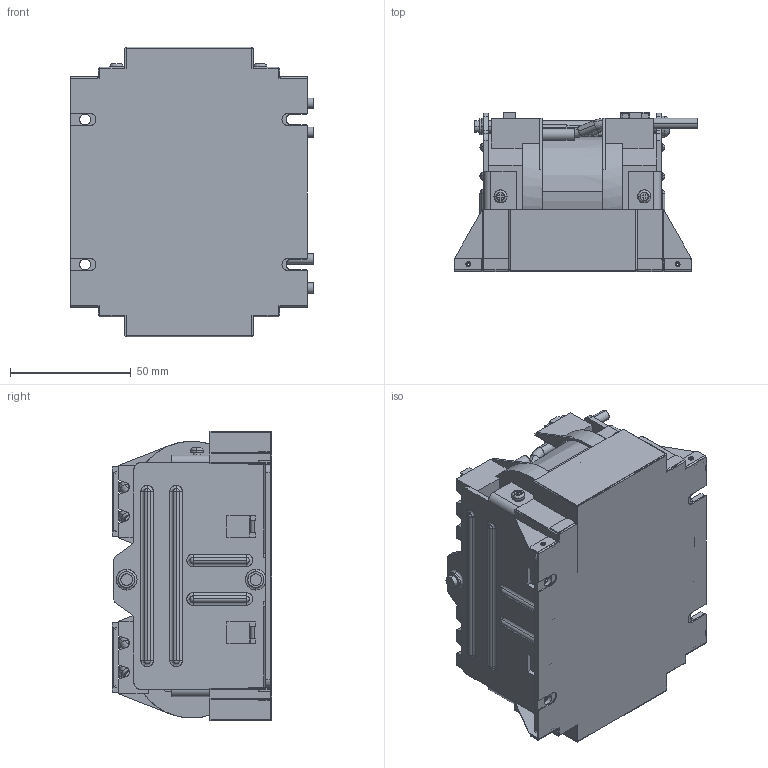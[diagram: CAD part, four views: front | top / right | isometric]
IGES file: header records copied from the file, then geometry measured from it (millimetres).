
Start section: SolidWorks IGES file using analytic representation for surfaces
Global section: file name: 40H\\10.106.230.1\R&D File\05_COMP\02_Mechanical\10_Others\PV_RT 81\网络用3D模型\半灌封模型\5KW_S_CB-DCL\SP10215B-SM00DS20R(M-5KW_CB-DCL-S).IGS; native system: SolidWorks 2009; preprocessor: SolidWorks 2009; author: Administrator; date: 120508.171121; units: millimetre
Bounding box: 100.5 x 65.9 x 120 mm (x, y, z)
Surface area: 159023.1 mm2 (no closed solid volume)
Topology: 0 solids, 0 shells, 1271 faces, 10211 edges, 10182 vertices
Faces by surface type: bspline 813, revolution 458
